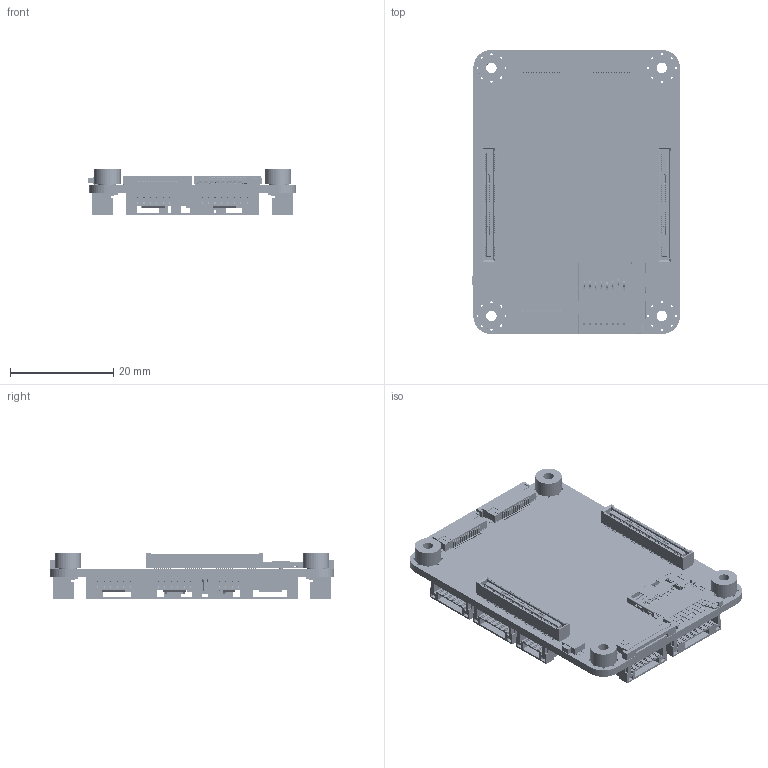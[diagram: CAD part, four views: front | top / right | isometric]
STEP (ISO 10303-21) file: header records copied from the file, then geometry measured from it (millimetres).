
FILE_DESCRIPTION(/* description */ ('KiCad electronic assembly'),/* implementation_level */ '2;1');
FILE_NAME(/* name */ 'Kelvin_RevB_public.step',/* time_stamp */ '2026-01-13T21:34:05+02:00',/* author */ (''),/* organization */ (''),/* preprocessor_version */ 'ST-DEVELOPER v20.1',/* originating_system */ 'Autodesk Translation Framework v14.21.0.0',/* authorisation */ '');
FILE_SCHEMA (('AUTOMOTIVE_DESIGN { 1 0 10303 214 3 1 1 }'));
Products named in the file (18): Kelvin_RevB_public 1; SFV16R-1STBE1HLF; PTS840GMPSMTRLFS; Body; Pins; SOLID; Lugs; 503398-1892; SOLID_1; SFV15R-1STBE1HLF; DF40HC_3.0_-100DS-0.4V_58; SMTSO2530CTJ; SM02B-SRSS-TB_LF__SN_; SM04B-SRSS-TB_LFSN_; JST_GH_SM08B-GHS-TB_1x08-1MP_P1.25mm_Horizontal; JST_GH_SM04B-GHS-TB_1x04-1MP_P1.25mm_Horizontal; JST_GH_SM06B-GHS-TB_1x06-1MP_P1.25mm_Horizontal; Kelvin_PCB
Assembly tree (31 placements, depth 3):
  Kelvin_RevB_public 1
    SFV16R-1STBE1HLF
    DF40HC_3.0_-100DS-0.4V_58  x2
    PTS840GMPSMTRLFS
      Body
      Pins
      Lugs  x2
      SOLID
    SMTSO2530CTJ  x4
    SFV15R-1STBE1HLF  x2
    503398-1892
      SOLID_1
    JST_GH_SM04B-GHS-TB_1x04-1MP_P1.25mm_Horizontal  x4
    SM02B-SRSS-TB_LF__SN_
    JST_GH_SM08B-GHS-TB_1x08-1MP_P1.25mm_Horizontal  x3
    SM04B-SRSS-TB_LFSN_
    JST_GH_SM06B-GHS-TB_1x06-1MP_P1.25mm_Horizontal  x4
    Kelvin_PCB
Bounding box: 40.25 x 55.02 x 8.93 mm (x, y, z)
Volume: 5344.7 mm3; surface area: 13043.9 mm2
Topology: 242 solids, 242 shells, 19273 faces, 54895 edges, 36479 vertices
Faces by surface type: plane 16495, cylinder 2722, bspline 48, cone 8
Full cylindrical faces by diameter (mm): 0.235 x2, 0.25 x1, 0.37 x2, 0.4 x1, 0.5 x32, 0.7 x8, 2.013 x4, 3.5 x4, 4.2 x4, 5.1 x4
Entity records: 325580 total; most frequent: CARTESIAN_POINT 58084, ORIENTED_EDGE 56332, DIRECTION 50942, EDGE_CURVE 28166, LINE 24924, VECTOR 24924, VERTEX_POINT 18703, AXIS2_PLACEMENT_3D 13009
